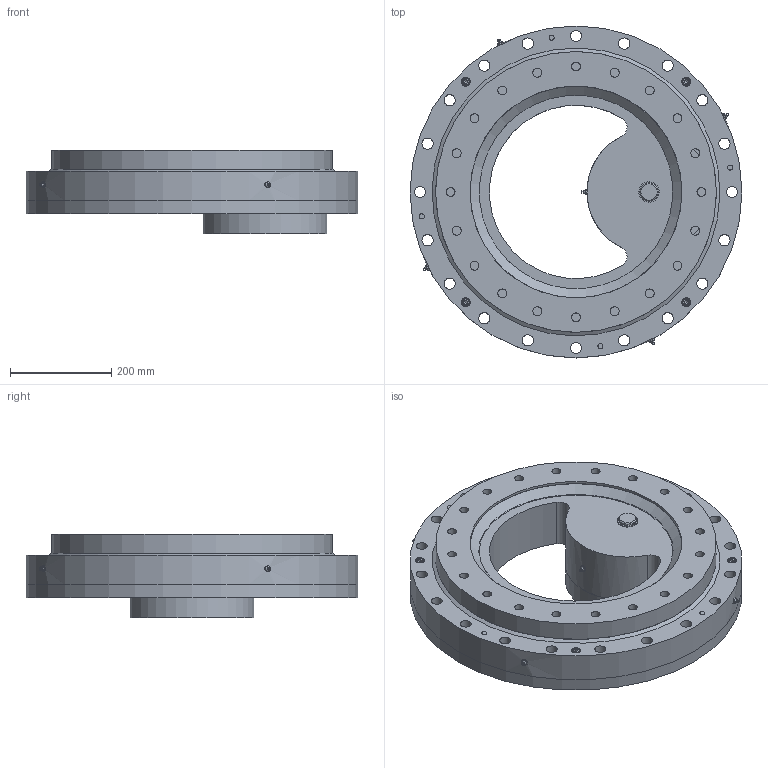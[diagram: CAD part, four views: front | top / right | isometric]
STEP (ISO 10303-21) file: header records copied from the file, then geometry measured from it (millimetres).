
FILE_DESCRIPTION(/* description */ ('STEP AP214'),/* implementation_level */ '2;1');
FILE_NAME(/* name */ '\\Serwer-ad\dnia$\dnia_tomasz_tb\Desktop\Tomcio\1. Cenniki + katalogi + materiały\U- Transmission\Katalogi 2023\Wersja NATECH DRV\Inner gear - slew drive\Our inner gear slew drive STEP\PT-H-0555-I-B-S.stp',/* time_stamp */ '2024-04-30T10:50:12+02:00',/* author */ ('dnia_tomasz_tb'),/* organization */ (''),/* preprocessor_version */ 'ST-DEVELOPER v19',/* originating_system */ 'Autodesk Inventor 2023',/* authorisation */ '');
FILE_SCHEMA (('AUTOMOTIVE_DESIGN { 1 0 10303 214 3 1 1 }'));
Length unit declared in the file: millimetre
Products named in the file (1): PT-H-0555-I-B-S
Bounding box: 655 x 655 x 165 mm (x, y, z)
Surface area: 1434173.6 mm2 (no closed solid volume)
Topology: 0 solids, 49 shells, 363 faces, 1217 edges, 865 vertices
Faces by surface type: plane 178, cylinder 145, cone 22, torus 18
Full cylindrical faces by diameter (mm): 2 x3, 8.5 x4, 10.2 x4, 17.5 x20, 18 x12, 22 x20, 24 x20, 36 x1, 40 x1, 70 x1, 105 x1, 105.925 x1, 160 x1, 245 x1, 418 x1, 554 x1, 655 x2
Entity records: 14785 total; most frequent: CARTESIAN_POINT 3125, DIRECTION 2532, ORIENTED_EDGE 1864, EDGE_CURVE 1209, AXIS2_PLACEMENT_3D 969, VERTEX_POINT 865, CIRCLE 605, LINE 594
